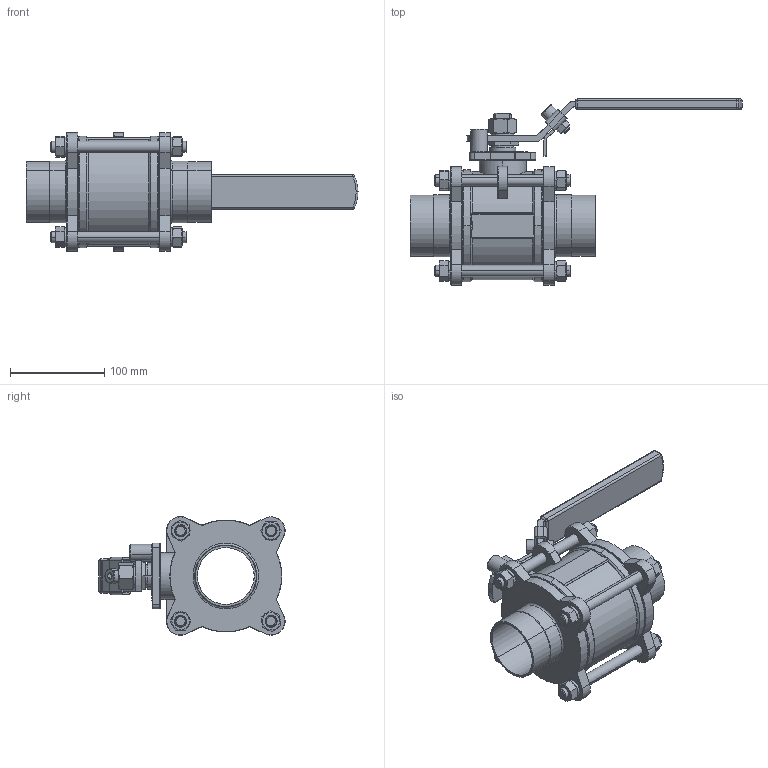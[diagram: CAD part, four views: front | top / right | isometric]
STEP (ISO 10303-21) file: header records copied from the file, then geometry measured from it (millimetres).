
FILE_DESCRIPTION (( 'STEP AP203' ), '1' );
FILE_NAME ('BAV-W-2.5.STEP', '2019-06-17T06:10:47', ( '' ), ( '' ), 'SwSTEP 2.0', 'SolidWorks 2014', '' );
FILE_SCHEMA (( 'CONFIG_CONTROL_DESIGN' ));
Length unit declared in the file: millimetre
Products named in the file (21): 2WAY-STOP PIN-2.5-3.0; 2WAY-BODY-2.5; 2WAY-SEAT-2.5; 2WAY-HANDLE NUT-2.5-3.0; 2WAY-BOLT NUT-2.5; 2WAY-GLAND-2.5-3.0; BAV-W-2.5; 2WAY-THRUST WASHER-2.5-3.0; 2WAY-HANDLE WASHERS-2.5-3.0; 2WAY-HANDLE-2.5-3.0; 2WAY-GASKET-2.5; 2WAY-STEM-2.5-3.0; 2WAY-HANDLE-2.5-3.0-3-1; 2WAY-HANDLE-2.5-3.0-3; 2WAY-STEM PACKINGS-2.5; 2WAY-BALL-2.5; 2WAY-HANDLE-2.5-3.0-2; 2WAY-BOLT WASHERS-2.5; 2WAY-CAP-W-2.5; 2WAY-BOLT-2.5; 2WAY-HANDLE-2.5-3.0-1
Assembly tree (40 placements, depth 2):
  BAV-W-2.5
    2WAY-BODY-2.5
    2WAY-STEM-2.5-3.0
    2WAY-THRUST WASHER-2.5-3.0
    2WAY-SEAT-2.5  x2
    2WAY-STEM PACKINGS-2.5
    2WAY-GLAND-2.5-3.0
    2WAY-BALL-2.5
    2WAY-GASKET-2.5  x2
    2WAY-BOLT-2.5  x4
    2WAY-BOLT NUT-2.5  x8
    2WAY-BOLT WASHERS-2.5  x8
    2WAY-HANDLE NUT-2.5-3.0
    2WAY-HANDLE WASHERS-2.5-3.0
    2WAY-HANDLE-2.5-3.0
    2WAY-HANDLE-2.5-3.0-1
    2WAY-HANDLE-2.5-3.0-2
    2WAY-HANDLE-2.5-3.0-3
    2WAY-HANDLE-2.5-3.0-3-1
    2WAY-CAP-W-2.5  x2
    2WAY-STOP PIN-2.5-3.0
Bounding box: 352.91 x 197.73 x 126.14 mm (x, y, z)
Volume: 1224782.8 mm3; surface area: 406410.2 mm2
Topology: 40 solids, 40 shells, 1067 faces, 2418 edges, 1430 vertices
Faces by surface type: cylinder 402, plane 260, cone 169, torus 163, sphere 39, bspline 34
Entity records: 25587 total; most frequent: CARTESIAN_POINT 5640, DIRECTION 3968, ORIENTED_EDGE 3374, EDGE_CURVE 1687, AXIS2_PLACEMENT_3D 1684, VERTEX_POINT 986, CIRCLE 918, EDGE_LOOP 831
